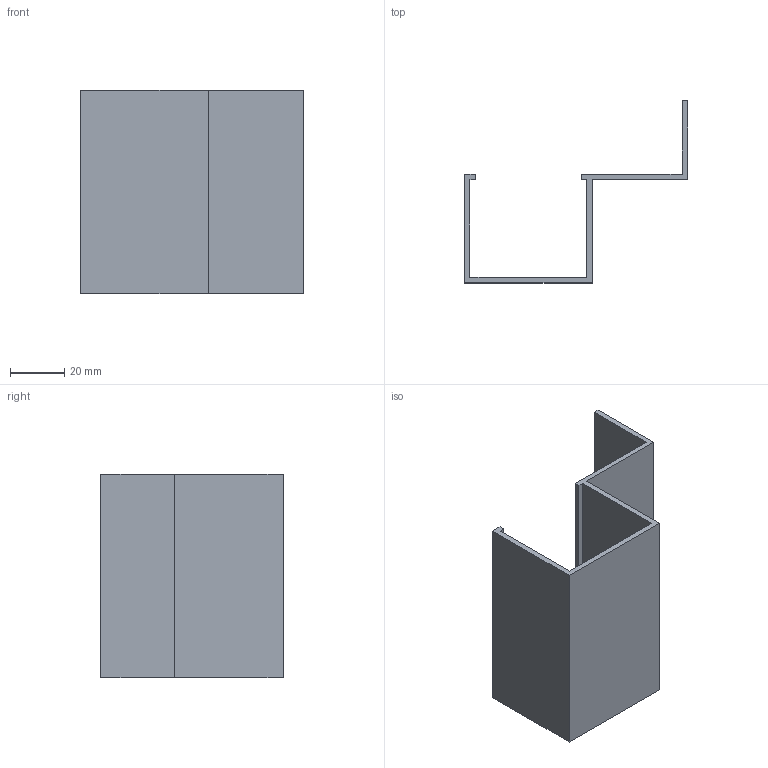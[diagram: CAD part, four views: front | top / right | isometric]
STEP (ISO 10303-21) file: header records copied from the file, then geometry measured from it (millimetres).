
FILE_DESCRIPTION (( 'STEP AP203' ), '1' );
FILE_NAME ('015.200.010.STEP', '2016-10-24T08:36:00', ( '' ), ( '' ), 'SwSTEP 2.0', 'SolidWorks 2016', '' );
FILE_SCHEMA (( 'CONFIG_CONTROL_DESIGN' ));
Length unit declared in the file: millimetre
Products named in the file (1): 015.200.010
Bounding box: 82 x 67 x 75 mm (x, y, z)
Volume: 28350 mm3; surface area: 29406 mm2
Topology: 1 solids, 1 shells, 18 faces, 48 edges, 32 vertices
Faces by surface type: plane 18
Entity records: 629 total; most frequent: CARTESIAN_POINT 99, ORIENTED_EDGE 96, DIRECTION 86, LINE 48, EDGE_CURVE 48, VECTOR 48, VERTEX_POINT 32, AXIS2_PLACEMENT_3D 19
